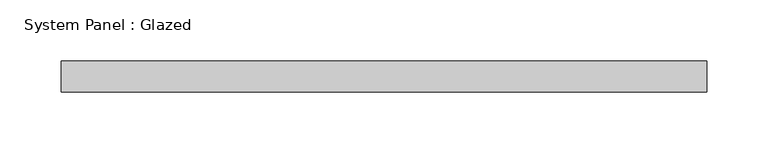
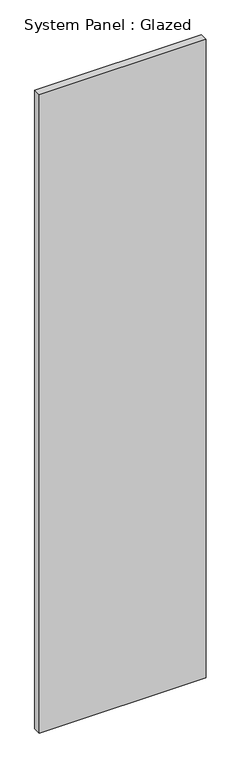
"""IFC4 building model written with IfcOpenShell, lengths in millimetres: plate geometry, System Panel : Glazed."""

import ifcopenshell
import ifcopenshell.guid

model = None  # the IFC model being written
_history = None  # IfcOwnerHistory: only IFC2X3 demands one
_inside = {}  # id of a spatial element -> (the spatial element, [elements in it])
_under = {}  # id of a project, library or spatial element -> (it, [spatial elements below it])
_declared = {}  # id of a project -> (the project, [libraries it declares])
_typed = {}  # id of a type object -> (the type object, [elements of that type])
_made_of = {}  # id of a material, layer set ... -> (it, [elements and type objects made of it])


def new_model(schema):
    """Start an empty IFC model of exactly this schema.

    Asked for "IFC4X3", IfcOpenShell would pick the latest addendum, in which some entities
    have other attributes; the version numbers below select the first issue.
    IFC2X3 requires an IfcOwnerHistory on every rooted entity: one is made here for all.
    """
    global model, _history
    if schema == "IFC4X3":
        model = ifcopenshell.file(schema_version=(4, 3, 0, 0))
    else:
        model = ifcopenshell.file(schema=schema)
    _inside.clear()
    _under.clear()
    _declared.clear()
    _typed.clear()
    _made_of.clear()
    _history = None
    if model.schema == "IFC2X3":
        org = make("IfcOrganization", Name="unknown")
        user = make(
            "IfcPersonAndOrganization",
            ThePerson=make("IfcPerson", FamilyName="unknown"),
            TheOrganization=org,
        )
        app = make(
            "IfcApplication",
            ApplicationDeveloper=org,
            Version="unknown",
            ApplicationFullName="unknown",
            ApplicationIdentifier="unknown",
        )
        _history = make(
            "IfcOwnerHistory",
            OwningUser=user,
            OwningApplication=app,
            ChangeAction="ADDED",
            CreationDate=0,
        )
    return model


def make(cls, **values):
    """One entity of the class cls with the attributes given. An attribute that is None is left unset."""
    return model.create_entity(
        cls, **{name: value for name, value in values.items() if value is not None}
    )


def rooted(cls, **values):
    """An entity with a GlobalId (a new one), such as an element, a storey or a relation."""
    return make(cls, GlobalId=ifcopenshell.guid.new(), OwnerHistory=_history, **values)


def si_unit(unit_type, name, prefix=None):
    """IfcSIUnit, for example si_unit("LENGTHUNIT", "METRE", prefix="MILLI")."""
    return make("IfcSIUnit", UnitType=unit_type, Prefix=prefix, Name=name)


def assignment(units):
    """IfcUnitAssignment: the units of a project."""
    return None if units is None else make("IfcUnitAssignment", Units=units)


def point(xyz):
    """IfcCartesianPoint."""
    return None if xyz is None else make("IfcCartesianPoint", Coordinates=xyz)


def direction(xyz):
    """IfcDirection."""
    return None if xyz is None else make("IfcDirection", DirectionRatios=xyz)


def frame(location, z_axis=None, x_axis=None):
    """IfcAxis2Placement3D, a coordinate frame: its origin and axes. An axis left out is left unset."""
    return make(
        "IfcAxis2Placement3D",
        Location=point(location),
        Axis=direction(z_axis),
        RefDirection=direction(x_axis),
    )


def origin():
    """The frame at (0, 0, 0) with its axes left unset."""
    return frame((0.0, 0.0, 0.0))


def origin_with_axes():
    """The frame at (0, 0, 0) with the z axis (0, 0, 1) and the x axis (1, 0, 0) written out."""
    return frame((0.0, 0.0, 0.0), z_axis=(0.0, 0.0, 1.0), x_axis=(1.0, 0.0, 0.0))


def place(relative_to, where):
    """IfcLocalPlacement: puts the frame where relative to a parent placement (None: the world)."""
    return make(
        "IfcLocalPlacement", PlacementRelTo=relative_to, RelativePlacement=where
    )


def context(
    kind, dimensions, precision=None, world=None, true_north=None, identifier=None
):
    """IfcGeometricRepresentationContext, for example the 3D "Model" context."""
    return make(
        "IfcGeometricRepresentationContext",
        ContextIdentifier=identifier,
        ContextType=kind,
        CoordinateSpaceDimension=dimensions,
        Precision=precision,
        WorldCoordinateSystem=world,
        TrueNorth=true_north,
    )


def project(units=None, contexts=None):
    """IfcProject with its units and contexts."""
    return rooted(
        "IfcProject",
        Name="project",
        RepresentationContexts=contexts,
        UnitsInContext=assignment(units),
    )


def spatial(cls, under=None, at=None, **own):
    """A site, building, storey or space (cls), placed at a placement, below another one or the project."""
    s = rooted(cls, ObjectPlacement=at, **own)
    if under is not None:
        _under.setdefault(under.id(), (under, []))[1].append(s)
    return s


def polyline(points):
    """IfcPolyline through the points."""
    return make("IfcPolyline", Points=[point(p) for p in points])


def outline(outer, holes=None, kind="AREA"):
    """IfcArbitraryClosedProfileDef: a profile drawn as a closed curve; with holes, ...WithVoids."""
    if holes is None:
        return make("IfcArbitraryClosedProfileDef", ProfileType=kind, OuterCurve=outer)
    return make(
        "IfcArbitraryProfileDefWithVoids",
        ProfileType=kind,
        OuterCurve=outer,
        InnerCurves=holes,
    )


def extrude(swept, where, along, depth):
    """IfcExtrudedAreaSolid: the profile swept, set in the frame where, extruded along a direction by depth."""
    return make(
        "IfcExtrudedAreaSolid",
        SweptArea=swept,
        Position=where,
        ExtrudedDirection=direction(along),
        Depth=depth,
    )


def shape(context_of_items, identifier, shape_type, items):
    """IfcShapeRepresentation: the items that make up one representation, for example the "Body"."""
    return make(
        "IfcShapeRepresentation",
        ContextOfItems=context_of_items,
        RepresentationIdentifier=identifier,
        RepresentationType=shape_type,
        Items=items,
    )


def source(mapping_origin, context_of_items, identifier, shape_type, items):
    """IfcRepresentationMap: a shape defined once, which mapped items show again and again."""
    return make(
        "IfcRepresentationMap",
        MappingOrigin=mapping_origin,
        MappedRepresentation=shape(context_of_items, identifier, shape_type, items),
    )


def transform(
    local_origin,
    x_axis=None,
    y_axis=None,
    z_axis=None,
    scale=None,
    scale2=None,
    scale3=None,
    uniform=True,
):
    """IfcCartesianTransformationOperator3D, or its non-uniform kind. x_axis, y_axis, z_axis: its Axis1, 2, 3."""
    if uniform:
        return make(
            "IfcCartesianTransformationOperator3D",
            Axis1=direction(x_axis),
            Axis2=direction(y_axis),
            LocalOrigin=point(local_origin),
            Scale=scale,
            Axis3=direction(z_axis),
        )
    return make(
        "IfcCartesianTransformationOperator3DnonUniform",
        Axis1=direction(x_axis),
        Axis2=direction(y_axis),
        LocalOrigin=point(local_origin),
        Scale=scale,
        Axis3=direction(z_axis),
        Scale2=scale2,
        Scale3=scale3,
    )


def mapped(mapping_source, mapping_target):
    """IfcMappedItem: shows the shape of a source again, moved by a transform."""
    return make(
        "IfcMappedItem", MappingSource=mapping_source, MappingTarget=mapping_target
    )


def made_of(thing, what):
    """Note that an element or type object is made of a material, layer set ...; save() writes the relation."""
    if what is not None:
        _made_of.setdefault(what.id(), (what, []))[1].append(thing)
    return thing


def element(
    cls,
    number,
    at=None,
    inside=None,
    cuts=None,
    type_object=None,
    material=None,
    context=None,
    identifier="Body",
    shape_type=None,
    held_by="IfcProductDefinitionShape",
    body=None,
    shapes=None,
    **own,
):
    """One element of the class cls, such as IfcWall. Its Tag is "e" and its number.

    at: its placement. inside: the storey or other place that contains it. cuts: it is an
    opening in that element (IfcRelVoidsElement). A single representation is given by context,
    identifier, shape_type and body (its items); several are given by shapes. held_by: the class
    of the entity that holds the representations. save() writes the other relations.
    """
    e = rooted(cls, Tag="e%d" % number, ObjectPlacement=at, **own)
    if body is not None:
        shapes = [shape(context, identifier, shape_type, body)]
    if shapes is not None:
        e.Representation = make(held_by, Representations=shapes)
    if inside is not None:
        _inside.setdefault(inside.id(), (inside, []))[1].append(e)
    if cuts is not None:
        rooted(
            "IfcRelVoidsElement", RelatingBuildingElement=cuts, RelatedOpeningElement=e
        )
    if type_object is not None:
        _typed.setdefault(type_object.id(), (type_object, []))[1].append(e)
    return made_of(e, material)


def aggregate(whole, parts):
    """IfcRelAggregates: a whole, such as a stair, and the parts it consists of."""
    return rooted("IfcRelAggregates", RelatingObject=whole, RelatedObjects=parts)


def save(model, path):
    """Write the relations noted so far, then the file.

    IfcRelAggregates (storeys below a building ...), IfcRelContainedInSpatialStructure (elements
    in a storey), IfcRelDefinesByType, IfcRelAssociatesMaterial and IfcRelDeclares: one each for
    every whole, place, type object, material and project.
    """
    for whole, parts in _under.values():
        aggregate(whole, parts)
    for where, things in _inside.values():
        rooted(
            "IfcRelContainedInSpatialStructure",
            RelatedElements=things,
            RelatingStructure=where,
        )
    for kind, things in _typed.values():
        rooted("IfcRelDefinesByType", RelatedObjects=things, RelatingType=kind)
    for what, things in _made_of.values():
        rooted("IfcRelAssociatesMaterial", RelatedObjects=things, RelatingMaterial=what)
    for by, libraries in _declared.values():
        rooted("IfcRelDeclares", RelatingContext=by, RelatedDefinitions=libraries)
    model.write(path)


def system_panel_glazed_1f7e3502(model_context):
    return source(origin(), model_context, "Body", "SweptSolid", [
        extrude(outline(polyline([(262.5, -12.5), (-262.5, -12.5), (-262.5, 12.5), (262.5, 12.5), (262.5, -12.5)])), origin_with_axes(), (0.0, 0.0, 1.0), 2126.0),
    ])


if __name__ == "__main__":
    model = new_model("IFC4")
    model_context = context("Model", 3, world=origin())
    ifc_project = project(units=[si_unit("LENGTHUNIT", "METRE", prefix="MILLI")], contexts=[model_context])
    site = spatial("IfcSite", under=ifc_project)
    building = spatial("IfcBuilding", under=site)
    placement = place(None, origin())
    system_panel_glazed_shape = system_panel_glazed_1f7e3502(model_context)
    element("IfcPlate", 1, ObjectType="System Panel : Glazed", at=placement, inside=building, context=model_context, shape_type="MappedRepresentation", body=[
        mapped(system_panel_glazed_shape, transform((0.0, 0.0, 0.0), x_axis=(1.0, 0.0, 0.0), y_axis=(0.0, 1.0, 0.0), z_axis=(0.0, 0.0, 1.0))),
    ])
    save(model, "model.ifc")
